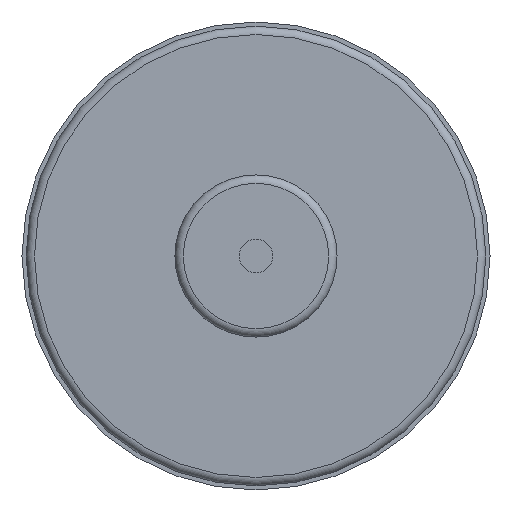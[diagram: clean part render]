
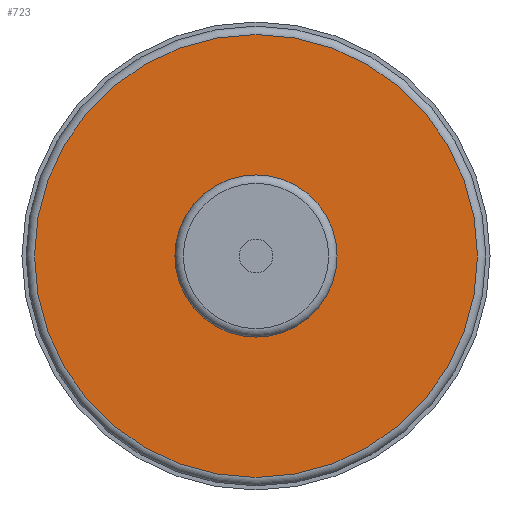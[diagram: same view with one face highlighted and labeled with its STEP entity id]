
A CAD part, front view. The second image highlights one B-rep face of the part: STEP entity #723.
In plain terms, the highlighted planar face has unit normal (0, -1, 0).
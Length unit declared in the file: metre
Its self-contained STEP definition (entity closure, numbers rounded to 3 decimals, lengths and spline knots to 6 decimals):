
#208=ORIENTED_EDGE('',*,*,#364,.T.);
#209=ORIENTED_EDGE('',*,*,#365,.F.);
#364=EDGE_CURVE('',#448,#448,#512,.T.);
#365=EDGE_CURVE('',#449,#449,#513,.T.);
#448=VERTEX_POINT('',#1181);
#449=VERTEX_POINT('',#1183);
#512=CIRCLE('',#864,0.00485);
#513=CIRCLE('',#865,0.01325);
#544=EDGE_LOOP('',(#208));
#545=EDGE_LOOP('',(#209));
#620=FACE_BOUND('',#544,.T.);
#621=FACE_BOUND('',#545,.T.);
#678=PLANE('',#863);
#723=ADVANCED_FACE('',(#620,#621),#678,.T.);
#863=AXIS2_PLACEMENT_3D('',#1179,#971,#972);
#864=AXIS2_PLACEMENT_3D('',#1180,#973,#974);
#865=AXIS2_PLACEMENT_3D('',#1182,#975,#976);
#971=DIRECTION('',(0.,-1.,0.));
#972=DIRECTION('',(-1.,0.,0.));
#973=DIRECTION('',(0.,1.,0.));
#974=DIRECTION('',(1.,0.,0.));
#975=DIRECTION('',(0.,1.,0.));
#976=DIRECTION('',(-1.,0.,0.));
#1179=CARTESIAN_POINT('',(0.,0.,0.));
#1180=CARTESIAN_POINT('',(0.,0.,0.));
#1181=CARTESIAN_POINT('',(0.00485,0.,0.));
#1182=CARTESIAN_POINT('',(0.,0.,0.));
#1183=CARTESIAN_POINT('',(-0.01325,0.,0.));
